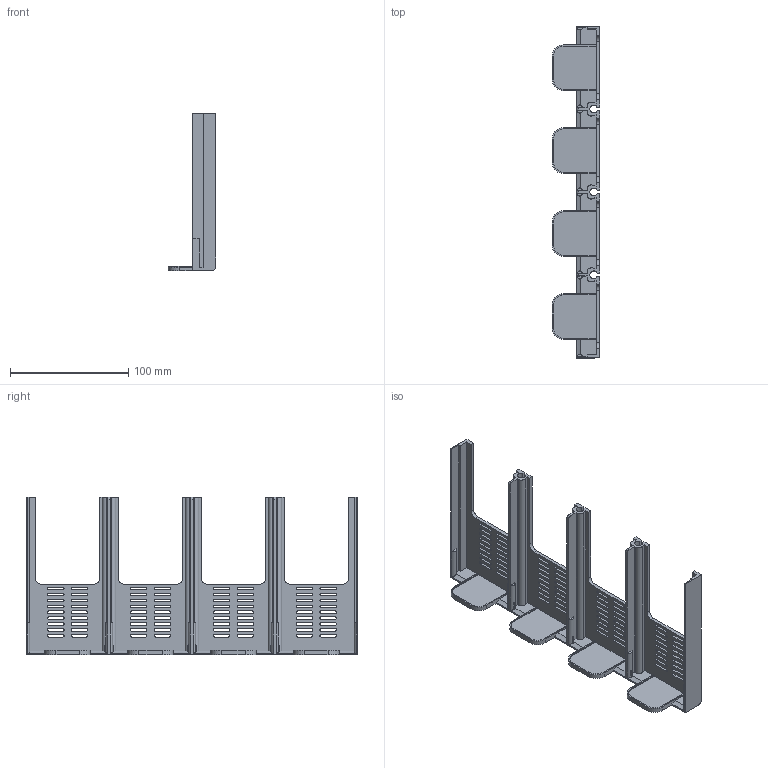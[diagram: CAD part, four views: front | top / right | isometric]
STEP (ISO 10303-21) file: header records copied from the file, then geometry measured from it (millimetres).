
FILE_DESCRIPTION((''),'2;1');
FILE_NAME('8TZD_742_6487','2025-12-10T10:27:04',('Administrator'),(''),'CREO PARAMETRIC BY PTC INC, 2020354','CREO PARAMETRIC BY PTC INC, 2020354','');
FILE_SCHEMA(('CONFIG_CONTROL_DESIGN'));
Length unit declared in the file: millimetre
Products named in the file (1): 8TZD_742_6487
Bounding box: 40 x 280 x 133 mm (x, y, z)
Volume: 112475.6 mm3; surface area: 94406.2 mm2
Topology: 1 solids, 1 shells, 494 faces, 1711 edges, 1219 vertices
Faces by surface type: plane 285, cylinder 200, bspline 6, torus 3
Entity records: 21321 total; most frequent: CARTESIAN_POINT 5476, ORIENTED_EDGE 3422, DIRECTION 3313, EDGE_CURVE 1711, VERTEX_POINT 1219, AXIS2_PLACEMENT_3D 1148, VECTOR 1017, LINE 1017
